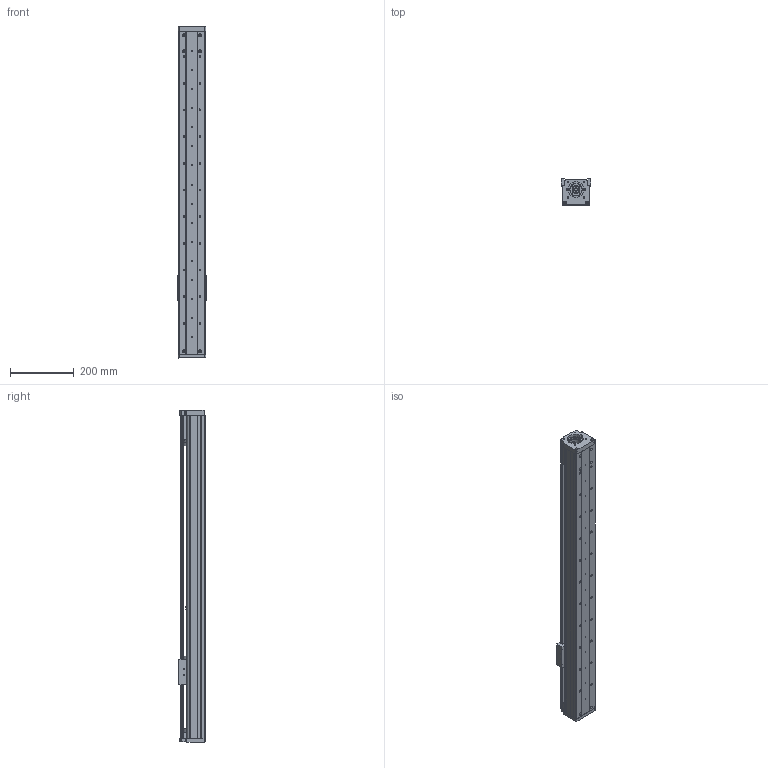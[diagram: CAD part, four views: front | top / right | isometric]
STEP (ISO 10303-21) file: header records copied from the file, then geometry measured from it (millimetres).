
FILE_DESCRIPTION (( 'STEP AP203' ), '1' );
FILE_NAME ('CF86-P800.STEP', '2016-02-22T05:58:52', ( 'Sky123.Org' ), ( 'Sky123.Org' ), 'SwSTEP 2.0', 'SolidWorks 2015', '' );
FILE_SCHEMA (( 'CONFIG_CONTROL_DESIGN' ));
Length unit declared in the file: millimetre
Products named in the file (18): 癹弇羲壽; 滅袉蝶菜; 86-60侜督萇儂釱; 01 86嘐隅釱; 86耜啣; CF86-P800; 02 86盓傅釱; 86-P420裔啣; angular contact ball bearings gb_Rolling bearings S7001 GB 292-94; 86-P420臏倰第; 95粣創裔啣; EGR15-P420絳寢; 坶踡蹟譫M12-1; EGW15CA賑輸; deep groove ball bearings gb_Rolling bearings 6001 GB 276-94; SFU1610-P420幗紩佪裝; CF86賑輸; SFU1610ĸ
Assembly tree (19 placements, depth 2):
  CF86-P800
    86耜啣
    86-P420裔啣
    86-P420臏倰第
    EGR15-P420絳寢
    EGW15CA賑輸
    SFU1610-P420幗紩佪裝
    SFU1610ĸ
    滅袉蝶菜  x2
    01 86嘐隅釱
    02 86盓傅釱
    angular contact ball bearings gb_Rolling bearings S7001 GB 292-94  x2
    95粣創裔啣
    坶踡蹟譫M12-1
    deep groove ball bearings gb_Rolling bearings 6001 GB 276-94
    CF86賑輸
    癹弇羲壽
    86-60侜督萇儂釱
Bounding box: 94 x 82.35 x 1045 mm (x, y, z)
Volume: 2532811.9 mm3; surface area: 906070 mm2
Topology: 19 solids, 19 shells, 1334 faces, 4200 edges, 2807 vertices
Faces by surface type: cylinder 712, plane 371, torus 159, sphere 84, bspline 4, cone 4
Entity records: 71866 total; most frequent: CARTESIAN_POINT 38098, ORIENTED_EDGE 7044, DIRECTION 6430, EDGE_CURVE 3522, AXIS2_PLACEMENT_3D 2536, VERTEX_POINT 2350, EDGE_LOOP 1512, VECTOR 1358
